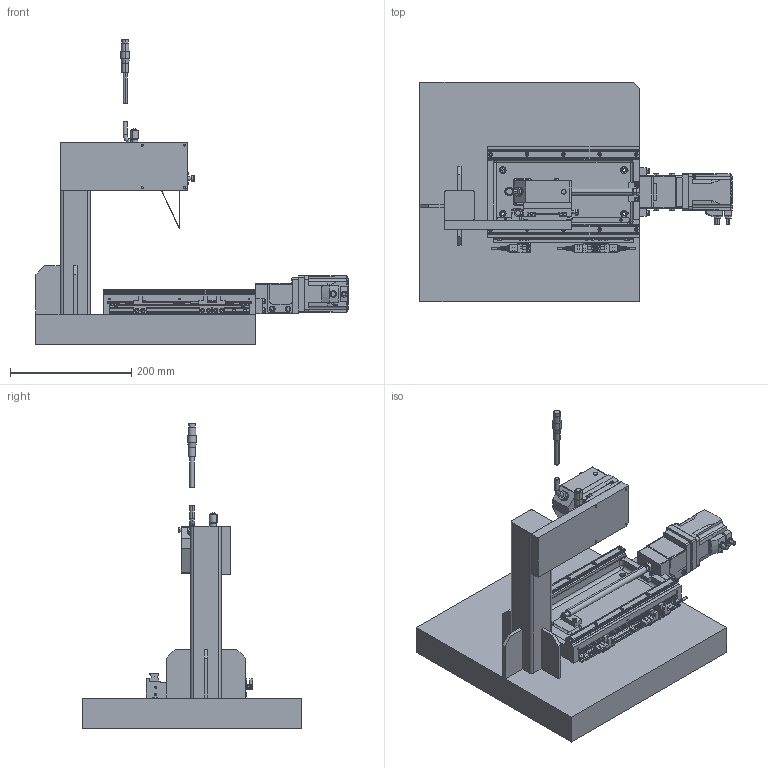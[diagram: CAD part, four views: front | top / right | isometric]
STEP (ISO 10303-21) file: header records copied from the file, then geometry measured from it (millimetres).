
FILE_DESCRIPTION (( 'STEP AP214' ), '1' );
FILE_NAME ('Base.STEP', '2021-01-22T02:37:20', ( '' ), ( '' ), 'SwSTEP 2.0', 'SolidWorks 2017', '' );
FILE_SCHEMA (( 'AUTOMOTIVE_DESIGN' ));
Length unit declared in the file: millimetre
Products named in the file (34): 0781_Z_CPLCN25-8-10_2; 0781_Z_XCRS80_2; 0781_Z_XCRS80_1; 0781_Z_TMXYA05-P6-S-R-M6-D5-SX100-SY100-TX60_1_5; Base; 0781_Z_CPLCN25-8-10_1; _0781_SA01; 0781_Z_TMXYA05-P6-S-R-M6-D5-SX100-SY100-TX60_1_2; 0781_502_Bracket; 0781_306_CBE6-20; 0781_001_TMXYA05-P6-S-R-M6-D5-SX100-SY100-TX60; 0781_Z_TMXYA05-P6-S-R-M6-D5-SX100-SY100-TX60_1_7; 0781_303_CBE4-12; 0781_Z_Stepping_Motor_1; 0781_302_CBE4-10; _0781_Assy; 0781_Z_Laser_Displacement_Sensor_2; 0781_007_XCRS80; _0781_SA03; 0781_102_Stepping_Motor; 0781_307_CBE4-45; 0781_Z_TMXYA05-P6-S-R-M6-D5-SX100-SY100-TX60_1_6; 0781_Z_Laser_Displacement_Sensor_1; 0781_203_Plate; 0781_Z_XCRS80_3; 0781_002_CPLCN25-8-10; 0781_Z_TMXYA05-P6-S-R-M6-D5-SX100-SY100-TX60_1_4; 0781_501_Base; 0781_Z_TMXYA05-P6-S-R-M6-D5-SX100-SY100-TX60_1_1; 0781_Z_TMXYA05-P6-S-R-M6-D5-SX100-SY100-TX60_1; 0781_101_Laser_Displacement_Sensor; 0781_Z_TMXYA05-P6-S-R-M6-D5-SX100-SY100-TX60_1_3; 0781_Z_Stepping_Motor_2; 0781_503_Plate
Assembly tree (37 placements, depth 6):
  Base
    0781_501_Base
    0781_502_Bracket
    0781_503_Plate
    _0781_Assy
      _0781_SA01
        0781_001_TMXYA05-P6-S-R-M6-D5-SX100-SY100-TX60
          0781_Z_TMXYA05-P6-S-R-M6-D5-SX100-SY100-TX60_1
            0781_Z_TMXYA05-P6-S-R-M6-D5-SX100-SY100-TX60_1_1
            0781_Z_TMXYA05-P6-S-R-M6-D5-SX100-SY100-TX60_1_2
            0781_Z_TMXYA05-P6-S-R-M6-D5-SX100-SY100-TX60_1_6
            0781_Z_TMXYA05-P6-S-R-M6-D5-SX100-SY100-TX60_1_3
            0781_Z_TMXYA05-P6-S-R-M6-D5-SX100-SY100-TX60_1_4
            0781_Z_TMXYA05-P6-S-R-M6-D5-SX100-SY100-TX60_1_5
            0781_Z_TMXYA05-P6-S-R-M6-D5-SX100-SY100-TX60_1_7
        0781_002_CPLCN25-8-10
          0781_Z_CPLCN25-8-10_1
          0781_Z_CPLCN25-8-10_2  x4
        0781_102_Stepping_Motor
          0781_Z_Stepping_Motor_1
          0781_Z_Stepping_Motor_2
        0781_303_CBE4-12
        0781_306_CBE6-20
      _0781_SA03
        0781_007_XCRS80
          0781_Z_XCRS80_1
          0781_Z_XCRS80_3
          0781_Z_XCRS80_2
        0781_101_Laser_Displacement_Sensor
          0781_Z_Laser_Displacement_Sensor_1
          0781_Z_Laser_Displacement_Sensor_2
        0781_203_Plate
        0781_302_CBE4-10  x2
        0781_307_CBE4-45
Bounding box: 514.4 x 362 x 502.4 mm (x, y, z)
Volume: 9163390.5 mm3; surface area: 854970.7 mm2
Topology: 94 solids, 94 shells, 2761 faces, 6712 edges, 4258 vertices
Faces by surface type: plane 1378, cylinder 911, cone 409, bspline 55, torus 5, sphere 3
Entity records: 84785 total; most frequent: CARTESIAN_POINT 18739, DIRECTION 13633, ORIENTED_EDGE 12748, EDGE_CURVE 6374, AXIS2_PLACEMENT_3D 4875, VERTEX_POINT 4128, LINE 3883, VECTOR 3883
